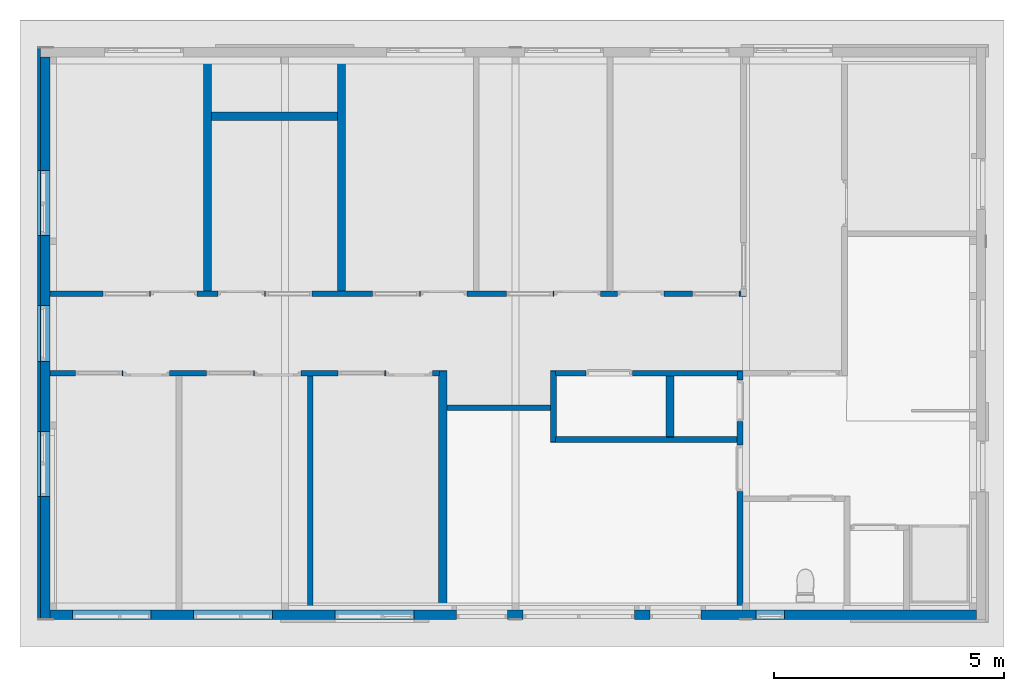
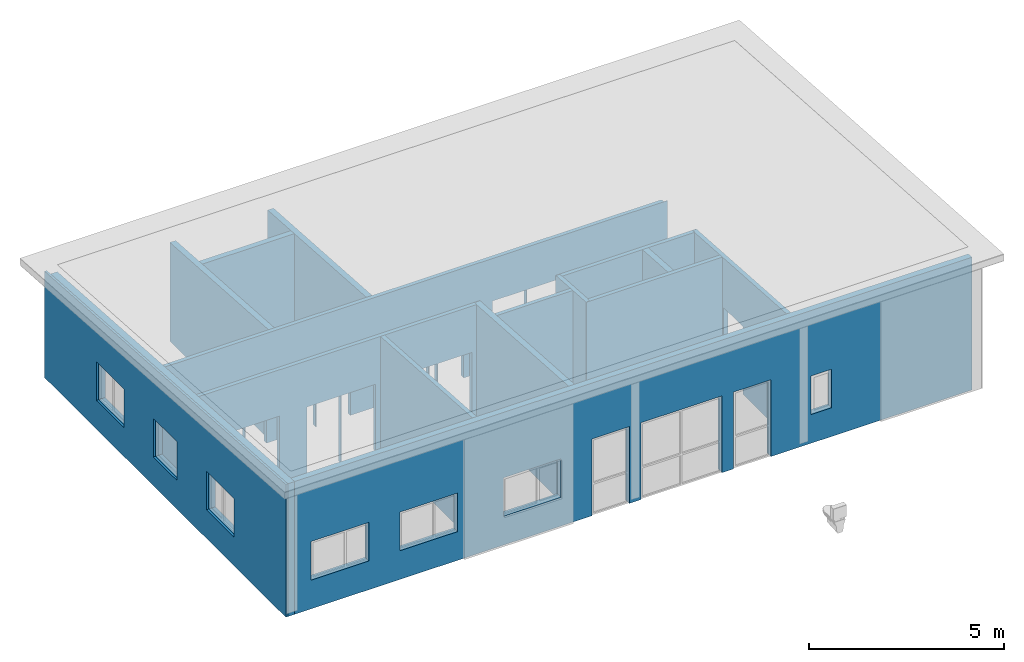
# One storey, part 2 of 37: 16 walls, 32 openings.
"""IFC2X3 building model written with IfcOpenShell, lengths in millimetres."""

import ifcopenshell
import ifcopenshell.guid

model = None  # the IFC model being written
_history = None  # IfcOwnerHistory: only IFC2X3 demands one
_inside = {}  # id of a spatial element -> (the spatial element, [elements in it])
_under = {}  # id of a project, library or spatial element -> (it, [spatial elements below it])
_declared = {}  # id of a project -> (the project, [libraries it declares])
_typed = {}  # id of a type object -> (the type object, [elements of that type])
_made_of = {}  # id of a material, layer set ... -> (it, [elements and type objects made of it])


def new_model(schema):
    """Start an empty IFC model of exactly this schema.

    Asked for "IFC4X3", IfcOpenShell would pick the latest addendum, in which some entities
    have other attributes; the version numbers below select the first issue.
    IFC2X3 requires an IfcOwnerHistory on every rooted entity: one is made here for all.
    """
    global model, _history
    if schema == "IFC4X3":
        model = ifcopenshell.file(schema_version=(4, 3, 0, 0))
    else:
        model = ifcopenshell.file(schema=schema)
    _inside.clear()
    _under.clear()
    _declared.clear()
    _typed.clear()
    _made_of.clear()
    _history = None
    if model.schema == "IFC2X3":
        org = make("IfcOrganization", Name="unknown")
        user = make(
            "IfcPersonAndOrganization",
            ThePerson=make("IfcPerson", FamilyName="unknown"),
            TheOrganization=org,
        )
        app = make(
            "IfcApplication",
            ApplicationDeveloper=org,
            Version="unknown",
            ApplicationFullName="unknown",
            ApplicationIdentifier="unknown",
        )
        _history = make(
            "IfcOwnerHistory",
            OwningUser=user,
            OwningApplication=app,
            ChangeAction="ADDED",
            CreationDate=0,
        )
    return model


def make(cls, **values):
    """One entity of the class cls with the attributes given. An attribute that is None is left unset."""
    return model.create_entity(
        cls, **{name: value for name, value in values.items() if value is not None}
    )


def entity(cls, *values):
    """Any entity or typed value of the class cls, its attributes in the order of the schema. None: left unset."""
    e = model.create_entity(cls)
    for i, value in enumerate(values):
        if value is not None:
            e[i] = value
    return e


def rooted(cls, **values):
    """An entity with a GlobalId (a new one), such as an element, a storey or a relation."""
    return make(cls, GlobalId=ifcopenshell.guid.new(), OwnerHistory=_history, **values)


def si_unit(unit_type, name, prefix=None):
    """IfcSIUnit, for example si_unit("LENGTHUNIT", "METRE", prefix="MILLI")."""
    return make("IfcSIUnit", UnitType=unit_type, Prefix=prefix, Name=name)


def converted_unit(unit_type, name, factor, base, dimensions=None, offset=None):
    """IfcConversionBasedUnit, such as the inch: factor (a typed value) times the base unit."""
    return make(
        "IfcConversionBasedUnit"
        if offset is None
        else "IfcConversionBasedUnitWithOffset",
        ConversionOffset=offset,
        Dimensions=None
        if dimensions is None
        else entity("IfcDimensionalExponents", *dimensions),
        UnitType=unit_type,
        Name=name,
        ConversionFactor=make(
            "IfcMeasureWithUnit", ValueComponent=factor, UnitComponent=base
        ),
    )


def assignment(units):
    """IfcUnitAssignment: the units of a project."""
    return None if units is None else make("IfcUnitAssignment", Units=units)


def point(xyz):
    """IfcCartesianPoint."""
    return None if xyz is None else make("IfcCartesianPoint", Coordinates=xyz)


def direction(xyz):
    """IfcDirection."""
    return None if xyz is None else make("IfcDirection", DirectionRatios=xyz)


def frame(location, z_axis=None, x_axis=None):
    """IfcAxis2Placement3D, a coordinate frame: its origin and axes. An axis left out is left unset."""
    return make(
        "IfcAxis2Placement3D",
        Location=point(location),
        Axis=direction(z_axis),
        RefDirection=direction(x_axis),
    )


def frame_2d(location, x_axis=None):
    """IfcAxis2Placement2D, a coordinate frame in the plane: its origin and x axis."""
    return make(
        "IfcAxis2Placement2D", Location=point(location), RefDirection=direction(x_axis)
    )


def origin():
    """The frame at (0, 0, 0) with its axes left unset."""
    return frame((0.0, 0.0, 0.0))


def origin_with_axes():
    """The frame at (0, 0, 0) with the z axis (0, 0, 1) and the x axis (1, 0, 0) written out."""
    return frame((0.0, 0.0, 0.0), z_axis=(0.0, 0.0, 1.0), x_axis=(1.0, 0.0, 0.0))


def place(relative_to, where):
    """IfcLocalPlacement: puts the frame where relative to a parent placement (None: the world)."""
    return make(
        "IfcLocalPlacement", PlacementRelTo=relative_to, RelativePlacement=where
    )


def context(
    kind, dimensions, precision=None, world=None, true_north=None, identifier=None
):
    """IfcGeometricRepresentationContext, for example the 3D "Model" context."""
    return make(
        "IfcGeometricRepresentationContext",
        ContextIdentifier=identifier,
        ContextType=kind,
        CoordinateSpaceDimension=dimensions,
        Precision=precision,
        WorldCoordinateSystem=world,
        TrueNorth=true_north,
    )


def subcontext(parent, identifier, kind, view, scale=None):
    """IfcGeometricRepresentationSubContext, for example "Body" below "Model"."""
    return make(
        "IfcGeometricRepresentationSubContext",
        ContextIdentifier=identifier,
        ContextType=kind,
        ParentContext=parent,
        TargetScale=scale,
        TargetView=view,
    )


def project(units=None, contexts=None):
    """IfcProject with its units and contexts."""
    return rooted(
        "IfcProject",
        Name="project",
        RepresentationContexts=contexts,
        UnitsInContext=assignment(units),
    )


def spatial(cls, under=None, at=None, **own):
    """A site, building, storey or space (cls), placed at a placement, below another one or the project."""
    s = rooted(cls, ObjectPlacement=at, **own)
    if under is not None:
        _under.setdefault(under.id(), (under, []))[1].append(s)
    return s


def polyline(points):
    """IfcPolyline through the points."""
    return make("IfcPolyline", Points=[point(p) for p in points])


def profile(cls, at=None, kind="AREA", **sizes):
    """A parametric profile (cls). Its sizes go by their IFC names, for example OverallWidth=200.0."""
    return make(cls, ProfileType=kind, Position=at, **sizes)


def rectangle(**sizes):
    """IfcRectangleProfileDef."""
    return profile("IfcRectangleProfileDef", **sizes)


def outline(outer, holes=None, kind="AREA"):
    """IfcArbitraryClosedProfileDef: a profile drawn as a closed curve; with holes, ...WithVoids."""
    if holes is None:
        return make("IfcArbitraryClosedProfileDef", ProfileType=kind, OuterCurve=outer)
    return make(
        "IfcArbitraryProfileDefWithVoids",
        ProfileType=kind,
        OuterCurve=outer,
        InnerCurves=holes,
    )


def extrude(swept, where, along, depth):
    """IfcExtrudedAreaSolid: the profile swept, set in the frame where, extruded along a direction by depth."""
    return make(
        "IfcExtrudedAreaSolid",
        SweptArea=swept,
        Position=where,
        ExtrudedDirection=direction(along),
        Depth=depth,
    )


def clip(a, b, op="DIFFERENCE"):
    """IfcBooleanClippingResult: the solid a cut by the half space b."""
    return make(
        "IfcBooleanClippingResult", Operator=op, FirstOperand=a, SecondOperand=b
    )


def halfspace(plane, agree):
    """IfcHalfSpaceSolid: all space on one side of the plane z = 0 of the frame plane."""
    return make(
        "IfcHalfSpaceSolid",
        BaseSurface=make("IfcPlane", Position=plane),
        AgreementFlag=agree,
    )


def bounded_halfspace(plane, agree, where, boundary):
    """IfcPolygonalBoundedHalfSpace: a half space limited to a polygon's prism."""
    return make(
        "IfcPolygonalBoundedHalfSpace",
        BaseSurface=make("IfcPlane", Position=plane),
        AgreementFlag=agree,
        Position=where,
        PolygonalBoundary=boundary,
    )


def shape(context_of_items, identifier, shape_type, items):
    """IfcShapeRepresentation: the items that make up one representation, for example the "Body"."""
    return make(
        "IfcShapeRepresentation",
        ContextOfItems=context_of_items,
        RepresentationIdentifier=identifier,
        RepresentationType=shape_type,
        Items=items,
    )


def material(Name=None, Category=None):
    """IfcMaterial."""
    return make("IfcMaterial", Name=Name, Category=Category)


def layer(
    of_material, thickness, ventilated=None, Name=None, Category=None, Priority=None
):
    """IfcMaterialLayer: one layer of a wall or slab, of a material (None: an air gap)."""
    return make(
        "IfcMaterialLayer",
        Material=of_material,
        LayerThickness=thickness,
        IsVentilated=ventilated,
        Name=Name,
        Category=Category,
        Priority=Priority,
    )


def layer_set(layers, Name=None):
    """IfcMaterialLayerSet."""
    return make("IfcMaterialLayerSet", MaterialLayers=layers, LayerSetName=Name)


def layer_usage(for_layer_set, set_direction, sense, offset, extent=None):
    """IfcMaterialLayerSetUsage: how a layer set lies in its element."""
    return make(
        "IfcMaterialLayerSetUsage",
        ForLayerSet=for_layer_set,
        LayerSetDirection=set_direction,
        DirectionSense=sense,
        OffsetFromReferenceLine=offset,
        ReferenceExtent=extent,
    )


def made_of(thing, what):
    """Note that an element or type object is made of a material, layer set ...; save() writes the relation."""
    if what is not None:
        _made_of.setdefault(what.id(), (what, []))[1].append(thing)
    return thing


def element(
    cls,
    number,
    at=None,
    inside=None,
    cuts=None,
    type_object=None,
    material=None,
    context=None,
    identifier="Body",
    shape_type=None,
    held_by="IfcProductDefinitionShape",
    body=None,
    shapes=None,
    **own,
):
    """One element of the class cls, such as IfcWall. Its Tag is "e" and its number.

    at: its placement. inside: the storey or other place that contains it. cuts: it is an
    opening in that element (IfcRelVoidsElement). A single representation is given by context,
    identifier, shape_type and body (its items); several are given by shapes. held_by: the class
    of the entity that holds the representations. save() writes the other relations.
    """
    e = rooted(cls, Tag="e%d" % number, ObjectPlacement=at, **own)
    if body is not None:
        shapes = [shape(context, identifier, shape_type, body)]
    if shapes is not None:
        e.Representation = make(held_by, Representations=shapes)
    if inside is not None:
        _inside.setdefault(inside.id(), (inside, []))[1].append(e)
    if cuts is not None:
        rooted(
            "IfcRelVoidsElement", RelatingBuildingElement=cuts, RelatedOpeningElement=e
        )
    if type_object is not None:
        _typed.setdefault(type_object.id(), (type_object, []))[1].append(e)
    return made_of(e, material)


def aggregate(whole, parts):
    """IfcRelAggregates: a whole, such as a stair, and the parts it consists of."""
    return rooted("IfcRelAggregates", RelatingObject=whole, RelatedObjects=parts)


def save(model, path):
    """Write the relations noted so far, then the file.

    IfcRelAggregates (storeys below a building ...), IfcRelContainedInSpatialStructure (elements
    in a storey), IfcRelDefinesByType, IfcRelAssociatesMaterial and IfcRelDeclares: one each for
    every whole, place, type object, material and project.
    """
    for whole, parts in _under.values():
        aggregate(whole, parts)
    for where, things in _inside.values():
        rooted(
            "IfcRelContainedInSpatialStructure",
            RelatedElements=things,
            RelatingStructure=where,
        )
    for kind, things in _typed.values():
        rooted("IfcRelDefinesByType", RelatedObjects=things, RelatingType=kind)
    for what, things in _made_of.values():
        rooted("IfcRelAssociatesMaterial", RelatedObjects=things, RelatingMaterial=what)
    for by, libraries in _declared.values():
        rooted("IfcRelDeclares", RelatingContext=by, RelatedDefinitions=libraries)
    model.write(path)


model = new_model("IFC2X3")

# Units and contexts
model_context = context("Model", 3, precision=1e-05, world=origin())
plan_context = context("Plan", 3, precision=1e-05, world=origin())
body_context = subcontext(model_context, "Body", "Model", "MODEL_VIEW")
ifc_project = project(units=[si_unit("LENGTHUNIT", "METRE", prefix="MILLI"), converted_unit("PLANEANGLEUNIT", "DEGREE", entity("IfcPlaneAngleMeasure", 0.0174532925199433), si_unit("PLANEANGLEUNIT", "RADIAN"), dimensions=[0, 0, 0, 0, 0, 0, 0]), si_unit("AREAUNIT", "SQUARE_METRE"), si_unit("VOLUMEUNIT", "CUBIC_METRE")], contexts=[model_context, plan_context])

# Building, storey
building_placement = place(None, origin())
building = spatial("IfcBuilding", under=ifc_project, at=building_placement, Name="HEKF Administrasjonbygg", CompositionType="ELEMENT")
storey_placement = place(building_placement, frame((0.0, 0.0, 9900.0), z_axis=(0.0, 0.0, 1.0), x_axis=(1.0, 0.0, 0.0)))
storey = spatial("IfcBuildingStorey", under=building, at=storey_placement, Name="Plan 2", CompositionType="ELEMENT", Elevation=9900.0)

# Wall, openings
ifc_material_1 = material(Name="Paroc 200")
ifc_layer_1 = layer(ifc_material_1, 200.0)
ifc_layer_set_1 = layer_set([ifc_layer_1])
ifc_layer_usage_1 = layer_usage(ifc_layer_set_1, "AXIS2", "POSITIVE", 0.0)
wall_1_placement = place(storey_placement, frame((30000.0, -12000.0, 0.0), z_axis=(0.0, 0.0, 1.0), x_axis=(-1.0, 9.049698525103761e-17, 0.0)))
wall_1 = element("IfcWallStandardCase", 1, at=wall_1_placement, inside=storey, material=ifc_layer_usage_1, context=body_context, shape_type="Clipping", body=[
    clip(extrude(rectangle(XDim=20100.00000000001, YDim=200.0, at=frame_2d((10050.0, 100.0), x_axis=(1.0, 0.0))), origin_with_axes(), (0.0, 0.0, 1.0), 4163.33333333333), halfspace(frame((0.0, 0.0, 4149.999999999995), z_axis=(9.405890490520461e-21, 0.06651901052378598, -0.9977851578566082), x_axis=(1.0, 0.0, 0.0)), True)),
])
opening_1_placement = place(wall_1_placement, frame((4165.0, 0.0, 900.0), z_axis=(0.0, 1.0, 0.0), x_axis=(0.0, 0.0, 1.0)))
element("IfcOpeningElement", 2, at=opening_1_placement, cuts=wall_1, Name="Window opening", ObjectType="Opening", context=body_context, shape_type="SweptSolid", body=[
    extrude(rectangle(XDim=1210.0, YDim=610.0, at=frame_2d((605.0, 305.0), x_axis=(1.0, 0.0))), origin_with_axes(), (0.0, 0.0, 1.0), 200.0),
])
opening_2_placement = place(wall_1_placement, frame((7420.0, 0.0, 0.0), z_axis=(0.0, 1.0, 0.0), x_axis=(0.0, 0.0, 1.0)))
element("IfcOpeningElement", 3, at=opening_2_placement, cuts=wall_1, Name="Window opening", ObjectType="Opening", context=body_context, shape_type="SweptSolid", body=[
    extrude(rectangle(XDim=2410.0, YDim=2410.0, at=frame_2d((1205.0, 1205.0), x_axis=(1.0, 0.0))), origin_with_axes(), (0.0, 0.0, 1.0), 200.0),
])
opening_3_placement = place(wall_1_placement, frame((5970.0, 0.0, 0.0), z_axis=(0.0, 1.0, 0.0), x_axis=(0.0, 0.0, 1.0)))
element("IfcOpeningElement", 4, at=opening_3_placement, cuts=wall_1, Name="Window opening", ObjectType="Opening", context=body_context, shape_type="SweptSolid", body=[
    extrude(rectangle(XDim=2410.0, YDim=1110.0, at=frame_2d((1205.0, 555.0), x_axis=(1.0, 0.0))), origin_with_axes(), (0.0, 0.0, 1.0), 200.0),
])
opening_4_placement = place(wall_1_placement, frame((10170.0, -1.818989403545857e-12, 0.0), z_axis=(0.0, 1.0, 0.0), x_axis=(0.0, 0.0, 1.0)))
element("IfcOpeningElement", 5, at=opening_4_placement, cuts=wall_1, Name="Window opening", ObjectType="Opening", context=body_context, shape_type="SweptSolid", body=[
    extrude(rectangle(XDim=2410.0, YDim=1110.0, at=frame_2d((1205.0, 555.0), x_axis=(1.0, 0.0))), origin_with_axes(), (0.0, 0.0, 1.0), 200.0),
])
opening_5_placement = place(wall_1_placement, frame((12200.0, -1.818989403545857e-12, 900.0), z_axis=(0.0, 1.0, 0.0), x_axis=(0.0, 0.0, 1.0)))
element("IfcOpeningElement", 6, at=opening_5_placement, cuts=wall_1, Name="Window opening", ObjectType="Opening", context=body_context, shape_type="SweptSolid", body=[
    extrude(rectangle(XDim=1210.0, YDim=1709.999999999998, at=frame_2d((605.0, 854.9999999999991), x_axis=(1.0, 0.0))), origin_with_axes(), (0.0, 0.0, 1.0), 200.0),
])
opening_6_placement = place(wall_1_placement, frame((15270.0, -1.818989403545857e-12, 900.0), z_axis=(0.0, 1.0, 0.0), x_axis=(0.0, 0.0, 1.0)))
element("IfcOpeningElement", 7, at=opening_6_placement, cuts=wall_1, Name="Window opening", ObjectType="Opening", context=body_context, shape_type="SweptSolid", body=[
    extrude(rectangle(XDim=1210.0, YDim=1710.0, at=frame_2d((605.0, 855.0), x_axis=(1.0, 0.0))), origin_with_axes(), (0.0, 0.0, 1.0), 200.0),
])
opening_7_placement = place(wall_1_placement, frame((17900.0, -1.818989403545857e-12, 900.0), z_axis=(0.0, 1.0, 0.0), x_axis=(0.0, 0.0, 1.0)))
element("IfcOpeningElement", 8, at=opening_7_placement, cuts=wall_1, Name="Window opening", ObjectType="Opening", context=body_context, shape_type="SweptSolid", body=[
    extrude(rectangle(XDim=1210.0, YDim=1710.0, at=frame_2d((605.0, 855.0), x_axis=(1.0, 0.0))), origin_with_axes(), (0.0, 0.0, 1.0), 200.0),
])

ifc_material_2 = material(Name="Paroc 200")
ifc_layer_2 = layer(ifc_material_2, 200.0)
ifc_layer_set_2 = layer_set([ifc_layer_2])
ifc_layer_usage_2 = layer_usage(ifc_layer_set_2, "AXIS2", "POSITIVE", 0.0)
wall_2_placement = place(storey_placement, frame((9899.99999999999, -12200.0, 0.0), z_axis=(0.0, 0.0, 1.0), x_axis=(5.963899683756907e-16, 1.0, 0.0)))
wall_2 = element("IfcWallStandardCase", 9, at=wall_2_placement, inside=storey, material=ifc_layer_usage_2, context=body_context, shape_type="Clipping", body=[
    clip(extrude(rectangle(XDim=12200.0, YDim=200.0, at=frame_2d((6100.0, 100.0), x_axis=(1.0, 0.0))), origin_with_axes(), (0.0, 0.0, 1.0), 4163.33333333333), halfspace(frame((0.0, 0.0, 4163.33333333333), z_axis=(-0.06651901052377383, -3.967127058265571e-17, -0.9977851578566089), x_axis=(0.9977851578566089, 0.0, -0.06651901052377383)), True)),
])
opening_8_placement = place(wall_2_placement, frame((5595.0, -3.637978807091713e-12, 900.0), z_axis=(0.0, 1.0, 0.0), x_axis=(0.0, 0.0, 1.0)))
element("IfcOpeningElement", 10, at=opening_8_placement, cuts=wall_2, Name="Window opening", ObjectType="Opening", context=body_context, shape_type="SweptSolid", body=[
    extrude(rectangle(XDim=1210.0, YDim=1210.0, at=frame_2d((605.0, 605.0), x_axis=(1.0, 0.0))), origin_with_axes(), (0.0, 0.0, 1.0), 200.0),
])
opening_9_placement = place(wall_2_placement, frame((2664.999999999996, -1.818989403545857e-12, 900.0), z_axis=(0.0, 1.0, 0.0), x_axis=(0.0, 0.0, 1.0)))
element("IfcOpeningElement", 11, at=opening_9_placement, cuts=wall_2, Name="Window opening", ObjectType="Opening", context=body_context, shape_type="SweptSolid", body=[
    extrude(rectangle(XDim=1210.0, YDim=1410.000000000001, at=frame_2d((605.0, 705.0000000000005), x_axis=(1.0, 0.0))), origin_with_axes(), (0.0, 0.0, 1.0), 200.0),
])
opening_10_placement = place(wall_2_placement, frame((8324.999999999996, -5.456968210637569e-12, 900.0), z_axis=(0.0, 1.0, 0.0), x_axis=(0.0, 0.0, 1.0)))
element("IfcOpeningElement", 12, at=opening_10_placement, cuts=wall_2, Name="Window opening", ObjectType="Opening", context=body_context, shape_type="SweptSolid", body=[
    extrude(rectangle(XDim=1210.0, YDim=1410.0, at=frame_2d((605.0, 705.0), x_axis=(1.0, 0.0))), origin_with_axes(), (0.0, 0.0, 1.0), 200.0),
])

ifc_material_3 = material(Name="Lekter")
ifc_layer_3 = layer(ifc_material_3, 46.00000000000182)
ifc_material_4 = material(Name="Kledning")
ifc_layer_4 = layer(ifc_material_4, 19.0)
ifc_layer_set_3 = layer_set([ifc_layer_3, ifc_layer_4])
ifc_layer_usage_3 = layer_usage(ifc_layer_set_3, "AXIS2", "POSITIVE", 0.0)
wall_3_placement = place(storey_placement, frame((9699.99999999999, -12200.0, 0.0), z_axis=(0.0, 0.0, 1.0), x_axis=(5.867707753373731e-16, 1.0, 0.0)))
wall_3 = element("IfcWallStandardCase", 13, at=wall_3_placement, inside=storey, material=ifc_layer_usage_3, context=body_context, shape_type="Clipping", body=[
    clip(extrude(rectangle(XDim=12400.0, YDim=65.0, at=frame_2d((6200.0, 32.5), x_axis=(1.0, 0.0))), origin_with_axes(), (0.0, 0.0, 1.0), 4163.33333333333), halfspace(frame((0.0, 0.0, 4163.33333333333), z_axis=(-0.06651901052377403, -3.903141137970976e-17, -0.9977851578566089), x_axis=(0.9977851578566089, 0.0, -0.06651901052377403)), True)),
])
opening_11_placement = place(wall_3_placement, frame((5595.0, -3.637978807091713e-12, 900.0), z_axis=(0.0, 1.0, 0.0), x_axis=(0.0, 0.0, 1.0)))
element("IfcOpeningElement", 14, at=opening_11_placement, cuts=wall_3, Name="Window opening", ObjectType="Opening", context=body_context, shape_type="SweptSolid", body=[
    extrude(rectangle(XDim=1210.0, YDim=1210.0, at=frame_2d((605.0, 605.0), x_axis=(1.0, 0.0))), origin_with_axes(), (0.0, 0.0, 1.0), 65.0),
])
opening_12_placement = place(wall_3_placement, frame((2664.999999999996, -5.456968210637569e-12, 900.0), z_axis=(0.0, 1.0, 0.0), x_axis=(0.0, 0.0, 1.0)))
element("IfcOpeningElement", 15, at=opening_12_placement, cuts=wall_3, Name="Window opening", ObjectType="Opening", context=body_context, shape_type="SweptSolid", body=[
    extrude(rectangle(XDim=1210.0, YDim=1410.000000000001, at=frame_2d((605.0, 705.0000000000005), x_axis=(1.0, 0.0))), origin_with_axes(), (0.0, 0.0, 1.0), 65.0),
])
opening_13_placement = place(wall_3_placement, frame((8324.999999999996, -5.456968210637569e-12, 900.0), z_axis=(0.0, 1.0, 0.0), x_axis=(0.0, 0.0, 1.0)))
element("IfcOpeningElement", 16, at=opening_13_placement, cuts=wall_3, Name="Window opening", ObjectType="Opening", context=body_context, shape_type="SweptSolid", body=[
    extrude(rectangle(XDim=1210.0, YDim=1410.0, at=frame_2d((605.0, 705.0), x_axis=(1.0, 0.0))), origin_with_axes(), (0.0, 0.0, 1.0), 65.0),
])

ifc_material_5 = material(Name="gips")
ifc_layer_5 = layer(ifc_material_5, 13.0)
ifc_material_6 = material(Name="riegel stål 100")
ifc_layer_6 = layer(ifc_material_6, 100.0000000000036)
ifc_material_7 = material(Name="gips")
ifc_layer_7 = layer(ifc_material_7, 13.00000000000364)
ifc_layer_set_4 = layer_set([ifc_layer_5, ifc_layer_6, ifc_layer_7])
ifc_layer_usage_4 = layer_usage(ifc_layer_set_4, "AXIS2", "POSITIVE", 0.0)
wall_4_placement = place(storey_placement, frame((9899.999999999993, -6924.999999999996, 0.0), z_axis=(0.0, 0.0, 1.0), x_axis=(1.0, -4.311934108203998e-16, 0.0)))
wall_4 = element("IfcWallStandardCase", 17, at=wall_4_placement, inside=storey, material=ifc_layer_usage_4, context=body_context, shape_type="Clipping", body=[
    clip(extrude(outline(polyline([(0.0, 0.0), (8437.0, 0.0), (8437.0, 13.0), (8450.0, 13.00000000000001), (8450.0, 113.0), (8600.0, 113.0000000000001), (8600.0, 126.0000000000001), (-5.433036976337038e-14, 126.0), (0.0, 0.0)])), origin_with_axes(), (0.0, 0.0, 1.0), 3561.666666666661), halfspace(frame((0.0, 0.0, 3561.666666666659), z_axis=(1.067272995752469e-16, -0.06651901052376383, -0.9977851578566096), x_axis=(1.0, 0.0, 2.155967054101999e-16)), True)),
])
opening_14_placement = place(wall_4_placement, frame((6255.0, -2.728484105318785e-12, 0.0), z_axis=(0.0, 1.0, 0.0), x_axis=(0.0, 0.0, 1.0)))
element("IfcOpeningElement", 18, at=opening_14_placement, cuts=wall_4, Name="Window opening", ObjectType="Opening", context=body_context, shape_type="SweptSolid", body=[
    extrude(rectangle(XDim=2110.0, YDim=1010.0, at=frame_2d((1055.0, 505.0), x_axis=(1.0, 0.0))), origin_with_axes(), (0.0, 0.0, 1.0), 126.0),
])
opening_15_placement = place(wall_4_placement, frame((554.9999999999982, 0.0, 0.0), z_axis=(0.0, 1.0, 0.0), x_axis=(0.0, 0.0, 1.0)))
element("IfcOpeningElement", 19, at=opening_15_placement, cuts=wall_4, Name="Window opening", ObjectType="Opening", context=body_context, shape_type="SweptSolid", body=[
    extrude(rectangle(XDim=2110.0, YDim=1010.0, at=frame_2d((1055.0, 505.0), x_axis=(1.0, 0.0))), origin_with_axes(), (0.0, 0.0, 1.0), 126.0),
])
opening_16_placement = place(wall_4_placement, frame((3404.999999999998, -1.818989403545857e-12, 0.0), z_axis=(0.0, 1.0, 0.0), x_axis=(0.0, 0.0, 1.0)))
element("IfcOpeningElement", 20, at=opening_16_placement, cuts=wall_4, Name="Window opening", ObjectType="Opening", context=body_context, shape_type="SweptSolid", body=[
    extrude(rectangle(XDim=2110.0, YDim=1010.0, at=frame_2d((1055.0, 505.0), x_axis=(1.0, 0.0))), origin_with_axes(), (0.0, 0.0, 1.0), 126.0),
])
opening_17_placement = place(wall_4_placement, frame((7290.0, -3.637978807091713e-12, 0.0), z_axis=(0.0, 1.0, 0.0), x_axis=(0.0, 0.0, 1.0)))
element("IfcOpeningElement", 21, at=opening_17_placement, cuts=wall_4, Name="garasjeport med glassfelter:45x6", ObjectType="Opening", context=body_context, shape_type="SweptSolid", body=[
    extrude(rectangle(XDim=2110.0, YDim=1010.0, at=frame_2d((1055.0, 505.0), x_axis=(1.0, 0.0))), origin_with_axes(), (0.0, 0.0, 1.0), 126.0),
])
opening_18_placement = place(wall_4_placement, frame((4439.999999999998, -1.818989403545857e-12, 0.0), z_axis=(0.0, 1.0, 0.0), x_axis=(0.0, 0.0, 1.0)))
element("IfcOpeningElement", 22, at=opening_18_placement, cuts=wall_4, Name="garasjeport med glassfelter:45x6", ObjectType="Opening", context=body_context, shape_type="SweptSolid", body=[
    extrude(rectangle(XDim=2110.0, YDim=1010.0, at=frame_2d((1055.0, 505.0), x_axis=(1.0, 0.0))), origin_with_axes(), (0.0, 0.0, 1.0), 126.0000000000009),
])
opening_19_placement = place(wall_4_placement, frame((1589.999999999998, -9.094947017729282e-13, 0.0), z_axis=(0.0, 1.0, 0.0), x_axis=(0.0, 0.0, 1.0)))
element("IfcOpeningElement", 23, at=opening_19_placement, cuts=wall_4, Name="garasjeport med glassfelter:45x6", ObjectType="Opening", context=body_context, shape_type="SweptSolid", body=[
    extrude(rectangle(XDim=2110.0, YDim=1010.0, at=frame_2d((1055.0, 505.0), x_axis=(1.0, 0.0))), origin_with_axes(), (0.0, 0.0, 1.0), 126.0),
])

# Wall
ifc_material_8 = material(Name="gips")
ifc_layer_8 = layer(ifc_material_8, 13.0)
ifc_material_9 = material(Name="riegel stål 100")
ifc_layer_9 = layer(ifc_material_9, 150.0)
ifc_material_10 = material(Name="gips")
ifc_layer_10 = layer(ifc_material_10, 13.0)
ifc_layer_set_5 = layer_set([ifc_layer_8, ifc_layer_9, ifc_layer_10])
ifc_layer_usage_5 = layer_usage(ifc_layer_set_5, "AXIS2", "POSITIVE", 0.0)
wall_5_placement = place(storey_placement, frame((13411.71552272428, -5075.0, 0.0), z_axis=(0.0, 0.0, 1.0), x_axis=(0.0, 1.0, 0.0)))
element("IfcWallStandardCase", 24, at=wall_5_placement, inside=storey, material=ifc_layer_usage_5, context=body_context, shape_type="Clipping", body=[
    clip(extrude(outline(polyline([(3698.999999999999, 0.0), (3698.999999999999, 13.0), (3711.999999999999, 13.0), (3711.999999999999, 0.0), (5075.0, 0.0), (5075.0, 176.0), (0.0, 176.0), (0.0, 0.0), (3698.999999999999, 0.0)])), origin_with_axes(), (0.0, 0.0, 1.0), 3438.333333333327), halfspace(frame((0.0, 0.0, 3438.333333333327), z_axis=(-0.06651901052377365, -1.341071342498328e-15, -0.9977851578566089), x_axis=(0.997785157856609, 0.0, -0.06651901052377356)), True)),
])

# Wall, openings
ifc_material_11 = material(Name="gips")
ifc_layer_11 = layer(ifc_material_11, 13.0)
ifc_material_12 = material(Name="riegel stål 100")
ifc_layer_12 = layer(ifc_material_12, 100.0)
ifc_material_13 = material(Name="gips")
ifc_layer_13 = layer(ifc_material_13, 13.0)
ifc_layer_set_6 = layer_set([ifc_layer_11, ifc_layer_12, ifc_layer_13])
ifc_layer_usage_6 = layer_usage(ifc_layer_set_6, "AXIS2", "POSITIVE", 0.0)
wall_6_placement = place(storey_placement, frame((24887.0, -5075.0, 0.0), z_axis=(0.0, 0.0, 1.0), x_axis=(-1.0, 0.0, 0.0)))
wall_6 = element("IfcWallStandardCase", 25, at=wall_6_placement, inside=storey, material=ifc_layer_usage_6, context=body_context, shape_type="Clipping", body=[
    clip(extrude(outline(polyline([(-113.0, 126.0), (-113.0, 113.0), (-13.0, 113.0), (-13.0, 13.0), (0.0, 13.0), (0.0, 0.0), (2774.0, 0.0), (2774.0, 13.0), (2787.0, 13.0), (2787.0, 0.0), (14987.00000000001, 0.0), (14987.00000000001, 126.0), (-113.0, 126.0)])), origin_with_axes(), (0.0, 0.0, 1.0), 3446.733333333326), halfspace(frame((2787.0, 0.0, 3438.333333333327), z_axis=(-9.402241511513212e-18, 0.06651901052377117, -0.9977851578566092), x_axis=(1.0, 0.0, 0.0)), True)),
])
opening_20_placement = place(wall_6_placement, frame((9293.284477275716, 0.0, 0.0), z_axis=(0.0, 1.0, 0.0), x_axis=(0.0, 0.0, 1.0)))
element("IfcOpeningElement", 26, at=opening_20_placement, cuts=wall_6, Name="Window opening", ObjectType="Opening", context=body_context, shape_type="SweptSolid", body=[
    extrude(rectangle(XDim=2110.0, YDim=1010.0, at=frame_2d((1055.0, 505.0), x_axis=(1.0, 0.0))), origin_with_axes(), (0.0, 0.0, 1.0), 126.0),
])
opening_21_placement = place(wall_6_placement, frame((6972.0, 0.0, 0.0), z_axis=(0.0, 1.0, 0.0), x_axis=(0.0, 0.0, 1.0)))
element("IfcOpeningElement", 27, at=opening_21_placement, cuts=wall_6, Name="Window opening", ObjectType="Opening", context=body_context, shape_type="SweptSolid", body=[
    extrude(rectangle(XDim=2110.0, YDim=1010.0, at=frame_2d((1055.0, 505.0), x_axis=(1.0, 0.0))), origin_with_axes(), (0.0, 0.0, 1.0), 126.0),
])
opening_22_placement = place(wall_6_placement, frame((12823.28447727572, 0.0, 0.0), z_axis=(0.0, 1.0, 0.0), x_axis=(0.0, 0.0, 1.0)))
element("IfcOpeningElement", 28, at=opening_22_placement, cuts=wall_6, Name="Window opening", ObjectType="Opening", context=body_context, shape_type="SweptSolid", body=[
    extrude(rectangle(XDim=2110.0, YDim=1010.0, at=frame_2d((1055.0, 505.0), x_axis=(1.0, 0.0))), origin_with_axes(), (0.0, 0.0, 1.0), 126.0),
])
opening_23_placement = place(wall_6_placement, frame((4072.0, 0.0, 0.0), z_axis=(0.0, 1.0, 0.0), x_axis=(0.0, 0.0, 1.0)))
element("IfcOpeningElement", 29, at=opening_23_placement, cuts=wall_6, Name="Window opening", ObjectType="Opening", context=body_context, shape_type="SweptSolid", body=[
    extrude(rectangle(XDim=2110.0, YDim=1010.0, at=frame_2d((1055.0, 505.0), x_axis=(1.0, 0.0))), origin_with_axes(), (0.0, 0.0, 1.0), 126.0),
])
opening_24_placement = place(wall_6_placement, frame((37.0, 0.0, 0.0), z_axis=(0.0, 1.0, 0.0), x_axis=(0.0, 0.0, 1.0)))
element("IfcOpeningElement", 30, at=opening_24_placement, cuts=wall_6, Name="Window opening", ObjectType="Opening", context=body_context, shape_type="SweptSolid", body=[
    extrude(rectangle(XDim=2110.0, YDim=1010.0, at=frame_2d((1055.0, 505.0), x_axis=(1.0, 0.0))), origin_with_axes(), (0.0, 0.0, 1.0), 126.0),
])
opening_25_placement = place(wall_6_placement, frame((11788.28447727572, 0.0, 0.0), z_axis=(0.0, 1.0, 0.0), x_axis=(0.0, 0.0, 1.0)))
element("IfcOpeningElement", 31, at=opening_25_placement, cuts=wall_6, Name="garasjeport med glassfelter:45x6", ObjectType="Opening", context=body_context, shape_type="SweptSolid", body=[
    extrude(rectangle(XDim=2110.0, YDim=1010.0, at=frame_2d((1055.0, 505.0), x_axis=(1.0, 0.0))), origin_with_axes(), (0.0, 0.0, 1.0), 126.0),
])
opening_26_placement = place(wall_6_placement, frame((10328.28447727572, 0.0, 0.0), z_axis=(0.0, 1.0, 0.0), x_axis=(0.0, 0.0, 1.0)))
element("IfcOpeningElement", 32, at=opening_26_placement, cuts=wall_6, Name="garasjeport med glassfelter:45x6", ObjectType="Opening", context=body_context, shape_type="SweptSolid", body=[
    extrude(rectangle(XDim=2110.0, YDim=1010.0, at=frame_2d((1055.0, 505.0), x_axis=(1.0, 0.0))), origin_with_axes(), (0.0, 0.0, 1.0), 126.0),
])
opening_27_placement = place(wall_6_placement, frame((5937.0, 0.0, 0.0), z_axis=(0.0, 1.0, 0.0), x_axis=(0.0, 0.0, 1.0)))
element("IfcOpeningElement", 33, at=opening_27_placement, cuts=wall_6, Name="garasjeport med glassfelter:45x6", ObjectType="Opening", context=body_context, shape_type="SweptSolid", body=[
    extrude(rectangle(XDim=2110.0, YDim=1010.0, at=frame_2d((1055.0, 505.0), x_axis=(1.0, 0.0))), origin_with_axes(), (0.0, 0.0, 1.0), 126.0),
])
opening_28_placement = place(wall_6_placement, frame((3037.0, 0.0, 0.0), z_axis=(0.0, 1.0, 0.0), x_axis=(0.0, 0.0, 1.0)))
element("IfcOpeningElement", 34, at=opening_28_placement, cuts=wall_6, Name="garasjeport med glassfelter:45x6", ObjectType="Opening", context=body_context, shape_type="SweptSolid", body=[
    extrude(rectangle(XDim=2110.0, YDim=1010.0, at=frame_2d((1055.0, 505.0), x_axis=(1.0, 0.0))), origin_with_axes(), (0.0, 0.0, 1.0), 126.0),
])
opening_29_placement = place(wall_6_placement, frame((1664.0, 0.0, 0.0), z_axis=(0.0, 1.0, 0.0), x_axis=(0.0, 0.0, 1.0)))
element("IfcOpeningElement", 35, at=opening_29_placement, cuts=wall_6, Name="garasjeport med glassfelter:45x6", ObjectType="Opening", context=body_context, shape_type="SweptSolid", body=[
    extrude(rectangle(XDim=2110.0, YDim=1010.0, at=frame_2d((1055.0, 505.0), x_axis=(1.0, 0.0))), origin_with_axes(), (0.0, 0.0, 1.0), 126.0),
])

# Walls
ifc_material_14 = material(Name="gips")
ifc_layer_14 = layer(ifc_material_14, 13.0)
ifc_material_15 = material(Name="riegel stål 100")
ifc_layer_15 = layer(ifc_material_15, 100.0)
ifc_material_16 = material(Name="gips")
ifc_layer_16 = layer(ifc_material_16, 13.0)
ifc_layer_set_7 = layer_set([ifc_layer_14, ifc_layer_15, ifc_layer_16])
ifc_layer_usage_7 = layer_usage(ifc_layer_set_7, "AXIS2", "POSITIVE", 0.0)
wall_7_placement = place(storey_placement, frame((15612.99999999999, -12000.0, 0.0), z_axis=(0.0, 0.0, 1.0), x_axis=(0.0, 1.0, 0.0)))
element("IfcWallStandardCase", 36, at=wall_7_placement, inside=storey, material=ifc_layer_usage_7, context=body_context, shape_type="Clipping", body=[
    clip(extrude(rectangle(XDim=5075.000000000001, YDim=126.0, at=frame_2d((2537.500000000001, 63.0), x_axis=(1.0, 0.0))), origin_with_axes(), (0.0, 0.0, 1.0), 3899.999999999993), halfspace(frame((0.0, 0.0, 3899.999999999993), z_axis=(-0.06651901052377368, 0.0, -0.9977851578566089), x_axis=(0.997785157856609, 0.0, -0.06651901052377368)), True)),
])
ifc_material_17 = material(Name="gips")
ifc_layer_17 = layer(ifc_material_17, 13.0)
ifc_material_18 = material(Name="riegel stål 100")
ifc_layer_18 = layer(ifc_material_18, 150.0)
ifc_material_19 = material(Name="gips")
ifc_layer_19 = layer(ifc_material_19, 13.0)
ifc_layer_set_8 = layer_set([ifc_layer_17, ifc_layer_18, ifc_layer_19])
ifc_layer_usage_8 = layer_usage(ifc_layer_set_8, "AXIS2", "POSITIVE", 0.0)
wall_8_placement = place(storey_placement, frame((18512.99999999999, -12000.0, 0.0), z_axis=(0.0, 0.0, 1.0), x_axis=(0.0, 1.0, 0.0)))
element("IfcWallStandardCase", 37, at=wall_8_placement, inside=storey, material=ifc_layer_usage_8, context=body_context, shape_type="Clipping", body=[
    clip(extrude(outline(polyline([(0.0, 0.0), (5201.0, 0.0), (5201.0, 13.0), (5188.0, 13.0), (5188.0, 163.0), (5088.0, 163.0), (5088.0, 176.0), (0.0, 176.0), (0.0, 0.0)])), origin_with_axes(), (0.0, 0.0, 1.0), 3899.999999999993), halfspace(frame((0.0, 0.0, 3899.999999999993), z_axis=(-0.06651901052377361, -1.345168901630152e-15, -0.9977851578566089), x_axis=(0.9977851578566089, 0.0, -0.06651901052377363)), True)),
])
ifc_material_20 = material(Name="gips")
ifc_layer_20 = layer(ifc_material_20, 13.0)
ifc_material_21 = material(Name="riegel stål 100")
ifc_layer_21 = layer(ifc_material_21, 100.0)
ifc_material_22 = material(Name="gips")
ifc_layer_22 = layer(ifc_material_22, 13.0)
ifc_layer_set_9 = layer_set([ifc_layer_20, ifc_layer_21, ifc_layer_22])
ifc_layer_usage_9 = layer_usage(ifc_layer_set_9, "AXIS2", "POSITIVE", 0.0)
wall_9_placement = place(storey_placement, frame((20762.99999999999, -7549.0, 0.0), z_axis=(0.0, 0.0, 1.0), x_axis=(-1.0, 0.0, 0.0)))
element("IfcWallStandardCase", 38, at=wall_9_placement, inside=storey, material=ifc_layer_usage_9, context=body_context, shape_type="Clipping", body=[
    clip(extrude(rectangle(XDim=2250.0, YDim=126.0, at=frame_2d((1125.0, 63.0), x_axis=(1.0, 0.0))), origin_with_axes(), (0.0, 0.0, 1.0), 3611.666666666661), halfspace(frame((0.0, 0.0, 3603.266666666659), z_axis=(0.0, 0.06651901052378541, -0.9977851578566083), x_axis=(1.0, 0.0, 0.0)), True)),
])

# Wall, opening
ifc_material_23 = material(Name="gips")
ifc_layer_23 = layer(ifc_material_23, 13.0)
ifc_material_24 = material(Name="riegel stål 100")
ifc_layer_24 = layer(ifc_material_24, 100.0)
ifc_material_25 = material(Name="gips")
ifc_layer_25 = layer(ifc_material_25, 13.0)
ifc_layer_set_10 = layer_set([ifc_layer_23, ifc_layer_24, ifc_layer_25])
ifc_layer_usage_10 = layer_usage(ifc_layer_set_10, "AXIS2", "POSITIVE", 0.0)
wall_10_placement = place(storey_placement, frame((27077.53209661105, -6799.0, 0.0), z_axis=(0.0, 0.0, 1.0), x_axis=(-1.0, 0.0, 0.0)))
wall_10 = element("IfcWallStandardCase", 39, at=wall_10_placement, inside=storey, material=ifc_layer_usage_10, context=body_context, shape_type="Clipping", body=[
    clip(clip(extrude(outline(polyline([(2257.614546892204, 13.0), (2157.614546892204, 13.0), (2157.614546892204, 0.0), (6301.532096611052, 0.0), (6301.532096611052, 13.0), (6201.532096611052, 13.0), (6201.532096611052, 113.0), (6188.532096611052, 113.0), (6188.532096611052, 126.0), (2270.614546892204, 126.0), (2270.614546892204, 113.0), (2257.614546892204, 113.0), (2257.614546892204, 13.0)])), origin_with_axes(), (0.0, 0.0, 1.0), 3561.666666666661), bounded_halfspace(frame((2157.614546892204, 0.0, 3553.266666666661), z_axis=(0.0, 0.06651901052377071, -0.9977851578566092), x_axis=(1.0, 0.0, 0.0)), True, origin(), polyline([(2157.614546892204, 0.0), (6301.532096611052, 0.0), (6301.532096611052, 13.0), (6201.532096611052, 13.0), (6201.532096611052, 113.0), (6188.532096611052, 113.0), (6188.532096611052, 126.0), (2270.614546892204, 126.0), (2270.614546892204, 113.0), (2257.614546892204, 113.0), (2257.614546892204, 13.0), (2157.614546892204, 13.0), (2157.614546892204, 0.0)]))), bounded_halfspace(frame((0.0, 0.0, 3553.266666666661), z_axis=(0.0, 0.06651901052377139, -0.9977851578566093), x_axis=(1.0, 0.0, 0.0)), True, origin(), polyline([(0.0, 0.0), (2144.614546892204, 0.0), (2144.614546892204, 126.0), (-113.0, 126.0), (-113.0, 113.0), (-13.0, 113.0), (-13.0, 13.0), (0.0, 13.0), (0.0, 0.0)]))),
])
opening_30_placement = place(wall_10_placement, frame((4537.436605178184, 0.0, 0.0), z_axis=(0.0, 1.0, 0.0), x_axis=(0.0, 0.0, 1.0)))
element("IfcOpeningElement", 40, at=opening_30_placement, cuts=wall_10, Name="garasjeport med glassfelter:45x6", ObjectType="Opening", context=body_context, shape_type="SweptSolid", body=[
    extrude(rectangle(XDim=2110.0, YDim=1010.0, at=frame_2d((1055.0, 505.0), x_axis=(1.0, 0.0))), origin_with_axes(), (0.0, 0.0, 1.0), 126.0),
])

# Walls
ifc_material_26 = material(Name="gips")
ifc_layer_26 = layer(ifc_material_26, 13.0)
ifc_material_27 = material(Name="riegel stål 100")
ifc_layer_27 = layer(ifc_material_27, 100.0)
ifc_material_28 = material(Name="gips")
ifc_layer_28 = layer(ifc_material_28, 13.0)
ifc_layer_set_11 = layer_set([ifc_layer_26, ifc_layer_27, ifc_layer_28])
ifc_layer_usage_11 = layer_usage(ifc_layer_set_11, "AXIS2", "POSITIVE", 0.0)
wall_11_placement = place(storey_placement, frame((24806.91754971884, -8237.0, 0.0), z_axis=(0.0, 0.0, 1.0), x_axis=(-1.0, 0.0, 0.0)))
element("IfcWallStandardCase", 41, at=wall_11_placement, inside=storey, material=ifc_layer_usage_11, context=body_context, shape_type="Clipping", body=[
    clip(extrude(outline(polyline([(0.0, 0.0), (1369.703231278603, 0.0), (1369.703231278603, 16.86743463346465), (1530.703231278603, 16.86743463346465), (1530.703231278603, 13.0), (1382.703231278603, 13.0), (1382.703231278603, 0.0), (3917.917549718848, 0.0), (3917.917549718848, 13.0), (3930.917549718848, 13.0), (3930.917549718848, 113.0), (4030.917549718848, 113.0), (4030.917549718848, 126.0), (0.0, 126.0), (0.0, 0.0)])), origin_with_axes(), (0.0, 0.0, 1.0), 3657.533333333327), halfspace(frame((1382.703231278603, 0.0, 3649.133333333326), z_axis=(2.508253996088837e-16, 0.06651901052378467, -0.9977851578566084), x_axis=(1.0, 0.0, 0.0)), True)),
])
ifc_material_29 = material(Name="gips")
ifc_layer_29 = layer(ifc_material_29, 13.0)
ifc_material_30 = material(Name="riegel stål 100")
ifc_layer_30 = layer(ifc_material_30, 100.0)
ifc_material_31 = material(Name="gips")
ifc_layer_31 = layer(ifc_material_31, 13.0)
ifc_layer_set_12 = layer_set([ifc_layer_29, ifc_layer_30, ifc_layer_31])
ifc_layer_usage_12 = layer_usage(ifc_layer_set_12, "AXIS2", "POSITIVE", 0.0)
wall_12_placement = place(storey_placement, frame((20888.99999999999, -8250.0, 0.0), z_axis=(0.0, 0.0, 1.0), x_axis=(0.0, 1.0, 0.0)))
element("IfcWallStandardCase", 42, at=wall_12_placement, inside=storey, material=ifc_layer_usage_12, context=body_context, shape_type="Clipping", body=[
    clip(extrude(outline(polyline([(0.0, 0.0), (1338.0, 0.0), (1338.0, 13.0), (1438.0, 13.0), (1438.0, 113.0), (1451.0, 113.0), (1451.0, 126.0), (-113.0, 126.0), (-113.0, 113.0), (-100.0, 113.0), (-100.0, 13.0), (0.0, 13.0), (0.0, 0.0)])), origin_with_axes(), (0.0, 0.0, 1.0), 3657.533333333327), halfspace(frame((0.0, 0.0, 3649.999999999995), z_axis=(-0.06651901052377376, 0.0, -0.997785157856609), x_axis=(0.997785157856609, 0.0, -0.06651901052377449)), True)),
])
ifc_material_32 = material(Name="gips")
ifc_layer_32 = layer(ifc_material_32, 13.0)
ifc_material_33 = material(Name="riegel stål 100")
ifc_layer_33 = layer(ifc_material_33, 148.0)
ifc_material_34 = material(Name="gips")
ifc_layer_34 = layer(ifc_material_34, 13.0)
ifc_layer_set_13 = layer_set([ifc_layer_32, ifc_layer_33, ifc_layer_34])
ifc_layer_usage_13 = layer_usage(ifc_layer_set_13, "AXIS2", "POSITIVE", 0.0)
wall_13_placement = place(storey_placement, frame((23437.21431844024, -8253.867434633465, 0.0), z_axis=(0.0, 0.0, 1.0), x_axis=(0.0, 0.9999999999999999, 0.0)))
element("IfcWallStandardCase", 43, at=wall_13_placement, inside=storey, material=ifc_layer_usage_13, context=body_context, shape_type="Clipping", body=[
    clip(extrude(outline(polyline([(16.86743463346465, 174.0), (16.86743463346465, 13.0), (3.867434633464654, 13.0), (3.867434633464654, 161.0), (0.0, 161.0), (0.0, 0.0), (1328.867434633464, 0.0), (1328.867434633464, 174.0), (16.86743463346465, 174.0)])), origin_with_axes(), (0.0, 0.0, 1.0), 3650.257828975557), halfspace(frame((0.0, 0.0, 3650.257828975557), z_axis=(-0.06651901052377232, 3.195014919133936e-15, -0.9977851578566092), x_axis=(0.997785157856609, 0.0, -0.06651901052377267)), True)),
])

# Wall, openings
ifc_material_35 = material(Name="gips")
ifc_layer_35 = layer(ifc_material_35, 13.0)
ifc_material_36 = material(Name="riegel stål 100")
ifc_layer_36 = layer(ifc_material_36, 100.0)
ifc_material_37 = material(Name="gips")
ifc_layer_37 = layer(ifc_material_37, 13.0)
ifc_layer_set_14 = layer_set([ifc_layer_35, ifc_layer_36, ifc_layer_37])
ifc_layer_usage_14 = layer_usage(ifc_layer_set_14, "AXIS2", "POSITIVE", 0.0)
wall_14_placement = place(storey_placement, frame((24932.91754971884, -12000.0, 0.0), z_axis=(0.0, 0.0, 1.0), x_axis=(0.0, 1.0, 0.0)))
wall_14 = element("IfcWallStandardCase", 44, at=wall_14_placement, inside=storey, material=ifc_layer_usage_14, context=body_context, shape_type="Clipping", body=[
    clip(extrude(outline(polyline([(0.0, 0.0), (5201.000000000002, 0.0), (5201.000000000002, 13.0), (5188.000000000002, 13.0), (5188.000000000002, 113.0), (5088.000000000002, 113.0), (5088.000000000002, 126.0), (0.0, 126.0), (0.0, 0.0)])), origin_with_axes(), (0.0, 0.0, 1.0), 3899.999999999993), halfspace(frame((0.0, 0.0, 3899.999999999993), z_axis=(-0.06651901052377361, -1.968941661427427e-15, -0.9977851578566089), x_axis=(0.997785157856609, 0.0, -0.06651901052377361)), True)),
])
opening_31_placement = place(wall_14_placement, frame((4088.000000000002, 0.0, 0.0), z_axis=(0.0, 1.0, 0.0), x_axis=(0.0, 0.0, 1.0)))
element("IfcOpeningElement", 45, at=opening_31_placement, cuts=wall_14, Name="Door opening", ObjectType="Opening", context=body_context, shape_type="SweptSolid", body=[
    extrude(rectangle(XDim=2110.0, YDim=900.0, at=frame_2d((1055.0, 450.0), x_axis=(1.0, 0.0))), origin_with_axes(), (0.0, 0.0, 1.0), 126.0),
])
opening_32_placement = place(wall_14_placement, frame((2567.829342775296, 0.0, 0.0), z_axis=(0.0, 1.0, 0.0), x_axis=(0.0, 0.0, 1.0)))
element("IfcOpeningElement", 46, at=opening_32_placement, cuts=wall_14, Name="garasjeport med glassfelter:45x6", ObjectType="Opening", context=body_context, shape_type="SweptSolid", body=[
    extrude(rectangle(XDim=2110.0, YDim=1010.0, at=frame_2d((1055.0, 505.0), x_axis=(1.0, 0.0))), origin_with_axes(), (0.0, 0.0, 1.0), 126.0),
])

# Walls
ifc_material_38 = material(Name="gips")
ifc_layer_38 = layer(ifc_material_38, 13.0)
ifc_material_39 = material(Name="riegel stål 100")
ifc_layer_39 = layer(ifc_material_39, 148.0)
ifc_material_40 = material(Name="gips")
ifc_layer_40 = layer(ifc_material_40, 13.0)
ifc_layer_set_15 = layer_set([ifc_layer_38, ifc_layer_39, ifc_layer_40])
ifc_layer_usage_15 = layer_usage(ifc_layer_set_15, "AXIS2", "POSITIVE", 0.0)
wall_15_placement = place(storey_placement, frame((16139.0, -1.023181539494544e-12, 0.0), z_axis=(0.0, 0.0, 1.0), x_axis=(0.0, -1.0, 0.0)))
element("IfcWallStandardCase", 47, at=wall_15_placement, inside=storey, material=ifc_layer_usage_15, context=body_context, shape_type="Clipping", body=[
    clip(extrude(rectangle(XDim=5074.999999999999, YDim=174.0, at=frame_2d((2537.5, 87.0), x_axis=(1.0, 0.0))), origin_with_axes(), (0.0, 0.0, 1.0), 3438.333333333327), halfspace(frame((0.0, 0.0, 3099.999999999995), z_axis=(0.0665190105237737, 0.0, -0.9977851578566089), x_axis=(0.9977851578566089, 0.0, 0.0665190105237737)), True)),
])
ifc_material_41 = material(Name="gips")
ifc_layer_41 = layer(ifc_material_41, 13.0)
ifc_material_42 = material(Name="riegel stål 100")
ifc_layer_42 = layer(ifc_material_42, 150.0)
ifc_material_43 = material(Name="gips")
ifc_layer_43 = layer(ifc_material_43, 13.0)
ifc_layer_set_16 = layer_set([ifc_layer_41, ifc_layer_42, ifc_layer_43])
ifc_layer_usage_16 = layer_usage(ifc_layer_set_16, "AXIS2", "POSITIVE", 0.0)
wall_16_placement = place(storey_placement, frame((13398.71552272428, -1376.000000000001, 0.0), z_axis=(0.0, 0.0, 1.0), x_axis=(1.0, 0.0, 0.0)))
element("IfcWallStandardCase", 48, at=wall_16_placement, inside=storey, material=ifc_layer_usage_16, context=body_context, shape_type="Clipping", body=[
    clip(extrude(outline(polyline([(13.0, 176.0), (13.0, 13.0), (0.0, 13.0), (0.0, 0.0), (2740.284477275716, 0.0), (2740.284477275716, 176.0), (13.0, 176.0)])), origin_with_axes(), (0.0, 0.0, 1.0), 3191.733333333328), halfspace(frame((0.0, 0.0, 3191.733333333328), z_axis=(1.887355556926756e-17, -0.06651901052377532, -0.9977851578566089), x_axis=(1.0, 0.0, 0.0)), True)),
])

save(model, "model.ifc")
